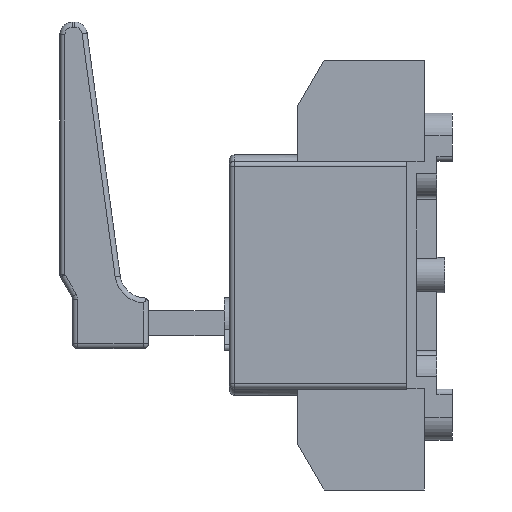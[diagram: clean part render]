
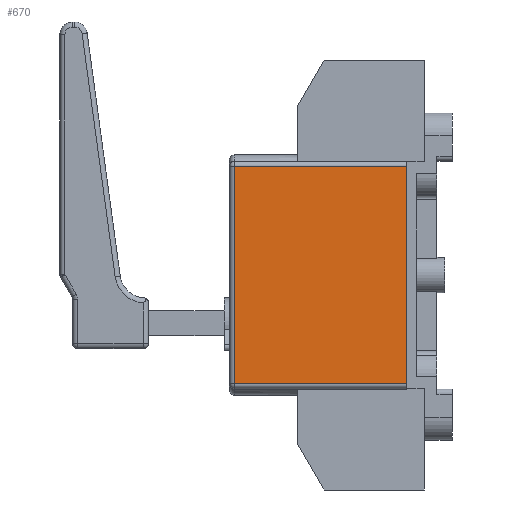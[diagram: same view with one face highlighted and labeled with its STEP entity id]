
A CAD part, left-side view. The second image highlights one B-rep face of the part: STEP entity #670.
In plain terms, the highlighted planar face has unit normal (-1, 0, 0).
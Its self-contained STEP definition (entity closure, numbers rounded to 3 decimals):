
#670=ADVANCED_FACE('',(#1187),#1001,.F.);
#1001=PLANE('',#6340);
#1187=FACE_OUTER_BOUND('',#1462,.T.);
#1462=EDGE_LOOP('',(#2045,#2046,#2047,#2048));
#2045=ORIENTED_EDGE('',*,*,#4374,.F.);
#2046=ORIENTED_EDGE('',*,*,#4375,.T.);
#2047=ORIENTED_EDGE('',*,*,#4371,.T.);
#2048=ORIENTED_EDGE('',*,*,#4376,.T.);
#3779=VERTEX_POINT('',#9084);
#3780=VERTEX_POINT('',#9085);
#3781=VERTEX_POINT('',#9090);
#3782=VERTEX_POINT('',#9091);
#4371=EDGE_CURVE('',#3779,#3780,#5222,.T.);
#4374=EDGE_CURVE('',#3781,#3782,#5223,.T.);
#4375=EDGE_CURVE('',#3781,#3779,#5224,.T.);
#4376=EDGE_CURVE('',#3780,#3782,#5225,.T.);
#5222=LINE('',#9083,#5805);
#5223=LINE('',#9089,#5806);
#5224=LINE('',#9092,#5807);
#5225=LINE('',#9093,#5808);
#5805=VECTOR('',#7139,1.);
#5806=VECTOR('',#7146,1.);
#5807=VECTOR('',#7147,1.);
#5808=VECTOR('',#7148,1.);
#6340=AXIS2_PLACEMENT_3D('',#9094,#7149,#7150);
#7139=DIRECTION('',(0.,-1.,0.));
#7146=DIRECTION('',(0.,-1.,0.));
#7147=DIRECTION('',(0.,0.,-1.));
#7148=DIRECTION('',(0.,0.,1.));
#7149=DIRECTION('',(1.,0.,0.));
#7150=DIRECTION('',(0.,0.,-1.));
#9083=CARTESIAN_POINT('',(-41.,35.,-43.));
#9084=CARTESIAN_POINT('',(-41.,68.,-43.));
#9085=CARTESIAN_POINT('',(-41.,0.,-43.));
#9089=CARTESIAN_POINT('',(-41.,35.,43.));
#9090=CARTESIAN_POINT('',(-41.,68.,43.));
#9091=CARTESIAN_POINT('',(-41.,0.,43.));
#9092=CARTESIAN_POINT('',(-41.,68.,-43.));
#9093=CARTESIAN_POINT('',(-41.,0.,-43.));
#9094=CARTESIAN_POINT('',(-41.,35.,-43.));
